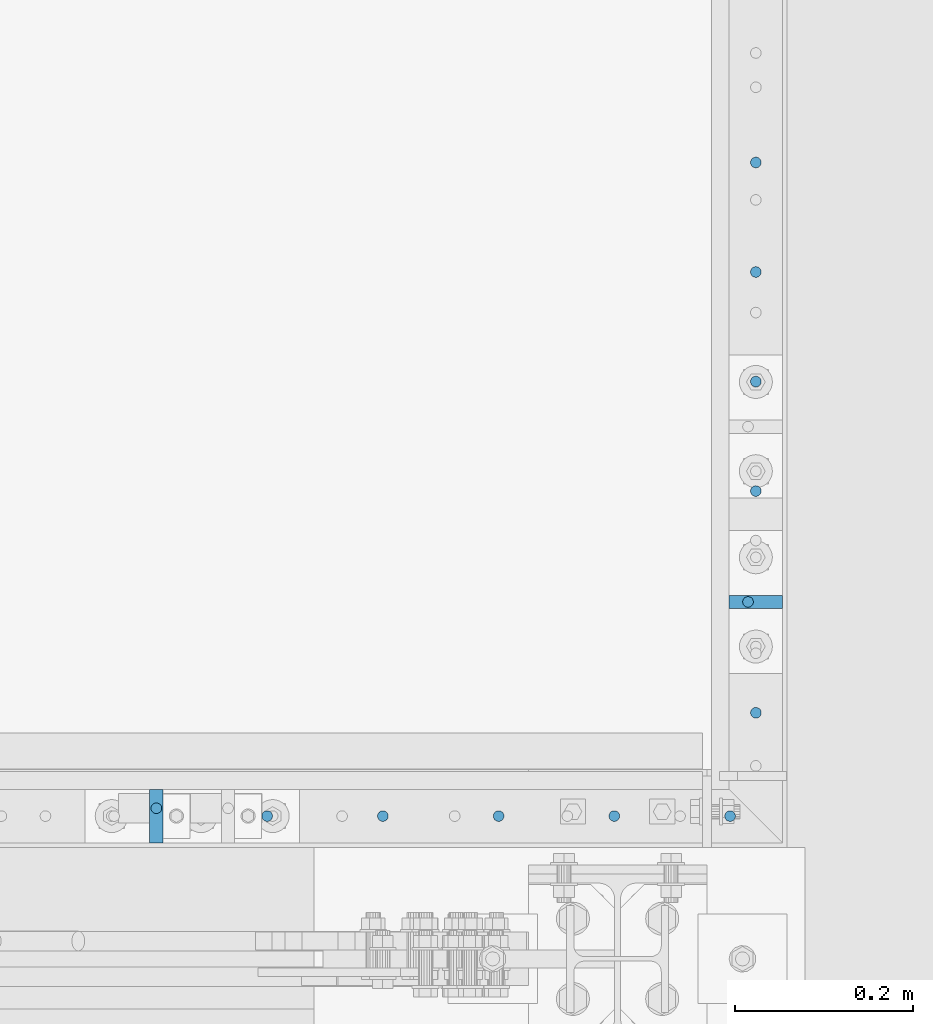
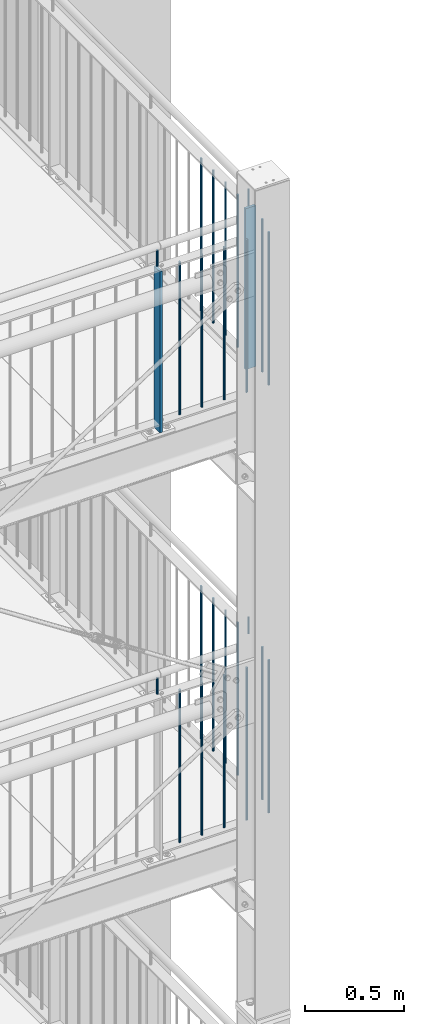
# One storey, part 87 of 831: 26 columns.
"""IFC2X3 building model written with IfcOpenShell, lengths in millimetres."""

import ifcopenshell
import ifcopenshell.guid

model = None  # the IFC model being written
_history = None  # IfcOwnerHistory: only IFC2X3 demands one
_inside = {}  # id of a spatial element -> (the spatial element, [elements in it])
_under = {}  # id of a project, library or spatial element -> (it, [spatial elements below it])
_declared = {}  # id of a project -> (the project, [libraries it declares])
_typed = {}  # id of a type object -> (the type object, [elements of that type])
_made_of = {}  # id of a material, layer set ... -> (it, [elements and type objects made of it])


def new_model(schema):
    """Start an empty IFC model of exactly this schema.

    Asked for "IFC4X3", IfcOpenShell would pick the latest addendum, in which some entities
    have other attributes; the version numbers below select the first issue.
    IFC2X3 requires an IfcOwnerHistory on every rooted entity: one is made here for all.
    """
    global model, _history
    if schema == "IFC4X3":
        model = ifcopenshell.file(schema_version=(4, 3, 0, 0))
    else:
        model = ifcopenshell.file(schema=schema)
    _inside.clear()
    _under.clear()
    _declared.clear()
    _typed.clear()
    _made_of.clear()
    _history = None
    if model.schema == "IFC2X3":
        org = make("IfcOrganization", Name="unknown")
        user = make(
            "IfcPersonAndOrganization",
            ThePerson=make("IfcPerson", FamilyName="unknown"),
            TheOrganization=org,
        )
        app = make(
            "IfcApplication",
            ApplicationDeveloper=org,
            Version="unknown",
            ApplicationFullName="unknown",
            ApplicationIdentifier="unknown",
        )
        _history = make(
            "IfcOwnerHistory",
            OwningUser=user,
            OwningApplication=app,
            ChangeAction="ADDED",
            CreationDate=0,
        )
    return model


def make(cls, **values):
    """One entity of the class cls with the attributes given. An attribute that is None is left unset."""
    return model.create_entity(
        cls, **{name: value for name, value in values.items() if value is not None}
    )


def entity(cls, *values):
    """Any entity or typed value of the class cls, its attributes in the order of the schema. None: left unset."""
    e = model.create_entity(cls)
    for i, value in enumerate(values):
        if value is not None:
            e[i] = value
    return e


def rooted(cls, **values):
    """An entity with a GlobalId (a new one), such as an element, a storey or a relation."""
    return make(cls, GlobalId=ifcopenshell.guid.new(), OwnerHistory=_history, **values)


def si_unit(unit_type, name, prefix=None):
    """IfcSIUnit, for example si_unit("LENGTHUNIT", "METRE", prefix="MILLI")."""
    return make("IfcSIUnit", UnitType=unit_type, Prefix=prefix, Name=name)


def converted_unit(unit_type, name, factor, base, dimensions=None, offset=None):
    """IfcConversionBasedUnit, such as the inch: factor (a typed value) times the base unit."""
    return make(
        "IfcConversionBasedUnit"
        if offset is None
        else "IfcConversionBasedUnitWithOffset",
        ConversionOffset=offset,
        Dimensions=None
        if dimensions is None
        else entity("IfcDimensionalExponents", *dimensions),
        UnitType=unit_type,
        Name=name,
        ConversionFactor=make(
            "IfcMeasureWithUnit", ValueComponent=factor, UnitComponent=base
        ),
    )


def assignment(units):
    """IfcUnitAssignment: the units of a project."""
    return None if units is None else make("IfcUnitAssignment", Units=units)


def point(xyz):
    """IfcCartesianPoint."""
    return None if xyz is None else make("IfcCartesianPoint", Coordinates=xyz)


def direction(xyz):
    """IfcDirection."""
    return None if xyz is None else make("IfcDirection", DirectionRatios=xyz)


def frame(location, z_axis=None, x_axis=None):
    """IfcAxis2Placement3D, a coordinate frame: its origin and axes. An axis left out is left unset."""
    return make(
        "IfcAxis2Placement3D",
        Location=point(location),
        Axis=direction(z_axis),
        RefDirection=direction(x_axis),
    )


def frame_2d(location, x_axis=None):
    """IfcAxis2Placement2D, a coordinate frame in the plane: its origin and x axis."""
    return make(
        "IfcAxis2Placement2D", Location=point(location), RefDirection=direction(x_axis)
    )


def origin():
    """The frame at (0, 0, 0) with its axes left unset."""
    return frame((0.0, 0.0, 0.0))


def origin_with_axes():
    """The frame at (0, 0, 0) with the z axis (0, 0, 1) and the x axis (1, 0, 0) written out."""
    return frame((0.0, 0.0, 0.0), z_axis=(0.0, 0.0, 1.0), x_axis=(1.0, 0.0, 0.0))


def origin_2d():
    """The frame at (0, 0) in the plane with its x axis left unset."""
    return frame_2d((0.0, 0.0))


def place(relative_to, where):
    """IfcLocalPlacement: puts the frame where relative to a parent placement (None: the world)."""
    return make(
        "IfcLocalPlacement", PlacementRelTo=relative_to, RelativePlacement=where
    )


def context(
    kind, dimensions, precision=None, world=None, true_north=None, identifier=None
):
    """IfcGeometricRepresentationContext, for example the 3D "Model" context."""
    return make(
        "IfcGeometricRepresentationContext",
        ContextIdentifier=identifier,
        ContextType=kind,
        CoordinateSpaceDimension=dimensions,
        Precision=precision,
        WorldCoordinateSystem=world,
        TrueNorth=true_north,
    )


def project(units=None, contexts=None):
    """IfcProject with its units and contexts."""
    return rooted(
        "IfcProject",
        Name="project",
        RepresentationContexts=contexts,
        UnitsInContext=assignment(units),
    )


def spatial(cls, under=None, at=None, **own):
    """A site, building, storey or space (cls), placed at a placement, below another one or the project."""
    s = rooted(cls, ObjectPlacement=at, **own)
    if under is not None:
        _under.setdefault(under.id(), (under, []))[1].append(s)
    return s


def profile(cls, at=None, kind="AREA", **sizes):
    """A parametric profile (cls). Its sizes go by their IFC names, for example OverallWidth=200.0."""
    return make(cls, ProfileType=kind, Position=at, **sizes)


def rectangle(**sizes):
    """IfcRectangleProfileDef."""
    return profile("IfcRectangleProfileDef", **sizes)


def circle(**sizes):
    """IfcCircleProfileDef."""
    return profile("IfcCircleProfileDef", **sizes)


def extrude(swept, where, along, depth):
    """IfcExtrudedAreaSolid: the profile swept, set in the frame where, extruded along a direction by depth."""
    return make(
        "IfcExtrudedAreaSolid",
        SweptArea=swept,
        Position=where,
        ExtrudedDirection=direction(along),
        Depth=depth,
    )


def clip(a, b, op="DIFFERENCE"):
    """IfcBooleanClippingResult: the solid a cut by the half space b."""
    return make(
        "IfcBooleanClippingResult", Operator=op, FirstOperand=a, SecondOperand=b
    )


def halfspace(plane, agree):
    """IfcHalfSpaceSolid: all space on one side of the plane z = 0 of the frame plane."""
    return make(
        "IfcHalfSpaceSolid",
        BaseSurface=make("IfcPlane", Position=plane),
        AgreementFlag=agree,
    )


def shape(context_of_items, identifier, shape_type, items):
    """IfcShapeRepresentation: the items that make up one representation, for example the "Body"."""
    return make(
        "IfcShapeRepresentation",
        ContextOfItems=context_of_items,
        RepresentationIdentifier=identifier,
        RepresentationType=shape_type,
        Items=items,
    )


def material(Name=None, Category=None):
    """IfcMaterial."""
    return make("IfcMaterial", Name=Name, Category=Category)


def made_of(thing, what):
    """Note that an element or type object is made of a material, layer set ...; save() writes the relation."""
    if what is not None:
        _made_of.setdefault(what.id(), (what, []))[1].append(thing)
    return thing


def element(
    cls,
    number,
    at=None,
    inside=None,
    cuts=None,
    type_object=None,
    material=None,
    context=None,
    identifier="Body",
    shape_type=None,
    held_by="IfcProductDefinitionShape",
    body=None,
    shapes=None,
    **own,
):
    """One element of the class cls, such as IfcWall. Its Tag is "e" and its number.

    at: its placement. inside: the storey or other place that contains it. cuts: it is an
    opening in that element (IfcRelVoidsElement). A single representation is given by context,
    identifier, shape_type and body (its items); several are given by shapes. held_by: the class
    of the entity that holds the representations. save() writes the other relations.
    """
    e = rooted(cls, Tag="e%d" % number, ObjectPlacement=at, **own)
    if body is not None:
        shapes = [shape(context, identifier, shape_type, body)]
    if shapes is not None:
        e.Representation = make(held_by, Representations=shapes)
    if inside is not None:
        _inside.setdefault(inside.id(), (inside, []))[1].append(e)
    if cuts is not None:
        rooted(
            "IfcRelVoidsElement", RelatingBuildingElement=cuts, RelatedOpeningElement=e
        )
    if type_object is not None:
        _typed.setdefault(type_object.id(), (type_object, []))[1].append(e)
    return made_of(e, material)


def aggregate(whole, parts):
    """IfcRelAggregates: a whole, such as a stair, and the parts it consists of."""
    return rooted("IfcRelAggregates", RelatingObject=whole, RelatedObjects=parts)


def save(model, path):
    """Write the relations noted so far, then the file.

    IfcRelAggregates (storeys below a building ...), IfcRelContainedInSpatialStructure (elements
    in a storey), IfcRelDefinesByType, IfcRelAssociatesMaterial and IfcRelDeclares: one each for
    every whole, place, type object, material and project.
    """
    for whole, parts in _under.values():
        aggregate(whole, parts)
    for where, things in _inside.values():
        rooted(
            "IfcRelContainedInSpatialStructure",
            RelatedElements=things,
            RelatingStructure=where,
        )
    for kind, things in _typed.values():
        rooted("IfcRelDefinesByType", RelatedObjects=things, RelatingType=kind)
    for what, things in _made_of.values():
        rooted("IfcRelAssociatesMaterial", RelatedObjects=things, RelatingMaterial=what)
    for by, libraries in _declared.values():
        rooted("IfcRelDeclares", RelatingContext=by, RelatedDefinitions=libraries)
    model.write(path)


model = new_model("IFC2X3")

# Units and contexts
model_context = context("Model", 3, precision=1e-09, world=origin_with_axes())
ifc_project = project(units=[si_unit("LENGTHUNIT", "METRE", prefix="MILLI"), si_unit("AREAUNIT", "SQUARE_METRE"), si_unit("VOLUMEUNIT", "CUBIC_METRE"), converted_unit("PLANEANGLEUNIT", "DEGREE", entity("IfcPlaneAngleMeasure", 0.01745329), si_unit("PLANEANGLEUNIT", "RADIAN"), dimensions=[0, 0, 0, 0, 0, 0, 0])], contexts=[model_context])

# Site, building, storey
site_placement = place(None, origin_with_axes())
site = spatial("IfcSite", under=ifc_project, at=site_placement, Name="Site", CompositionType="ELEMENT")
building_placement = place(site_placement, origin_with_axes())
building = spatial("IfcBuilding", under=site, at=building_placement, Name="Struktur 1", CompositionType="ELEMENT")
storey_placement = place(building_placement, origin_with_axes())
storey = spatial("IfcBuildingStorey", under=building, at=storey_placement, Name="Default Storey", CompositionType="ELEMENT", Elevation=0.0)

# Columns
ifc_material = material(Name="S235JR")
column_1_placement = place(None, frame((9021.713402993, 5259.236043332, 14918.785281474), z_axis=(0.0, 0.0, 1.0), x_axis=(0.0, -1.0, 0.0)))
element("IfcColumn", 1, at=column_1_placement, inside=storey, material=ifc_material, Name="Railing_Picket_Landing#45", ObjectType="Railing_Picket_Landing#45", context=model_context, shape_type="Clipping", body=[
    clip(clip(extrude(circle(Radius=6.0, at=origin_2d()), origin(), (0.0, 0.0, -1.0), 965.770562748), halfspace(frame((5259.236043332, -9021.713402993, -13.486281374), z_axis=(0.0, 0.0, -1.0), x_axis=(0.0, -1.0, 0.0)), True)), halfspace(frame((5259.236043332, -9021.713402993, -952.284281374), z_axis=(0.0, 0.0, 1.0), x_axis=(0.0, 1.0, 0.0)), True)),
])
column_2_placement = place(None, frame((9021.713402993, 5136.486019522, 14918.785281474), z_axis=(0.0, 0.0, 1.0), x_axis=(0.0, -1.0, 0.0)))
element("IfcColumn", 2, at=column_2_placement, inside=storey, material=ifc_material, Name="Railing_Picket_Landing#46", ObjectType="Railing_Picket_Landing#46", context=model_context, shape_type="Clipping", body=[
    clip(clip(extrude(circle(Radius=6.0, at=origin_2d()), origin(), (0.0, 0.0, -1.0), 965.770562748), halfspace(frame((5136.486019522, -9021.713402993, -13.486281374), z_axis=(0.0, 0.0, -1.0), x_axis=(0.0, -1.0, 0.0)), True)), halfspace(frame((5136.486019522, -9021.713402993, -952.284281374), z_axis=(0.0, 0.0, 1.0), x_axis=(0.0, 1.0, 0.0)), True)),
])
column_3_placement = place(None, frame((9021.713402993, 5013.735995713, 14918.785281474), z_axis=(0.0, 0.0, 1.0), x_axis=(0.0, -1.0, 0.0)))
element("IfcColumn", 3, at=column_3_placement, inside=storey, material=ifc_material, Name="Railing_Picket_Landing#47", ObjectType="Railing_Picket_Landing#47", context=model_context, shape_type="Clipping", body=[
    clip(clip(extrude(circle(Radius=6.0, at=origin_2d()), origin(), (0.0, 0.0, -1.0), 965.770562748), halfspace(frame((5013.735995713, -9021.713402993, -13.486281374), z_axis=(0.0, 0.0, -1.0), x_axis=(0.0, -1.0, 0.0)), True)), halfspace(frame((5013.735995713, -9021.713402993, -952.284281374), z_axis=(0.0, 0.0, 1.0), x_axis=(0.0, 1.0, 0.0)), True)),
])
column_4_placement = place(None, frame((9021.713402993, 4890.985971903, 14918.785281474), z_axis=(0.0, 0.0, 1.0), x_axis=(0.0, -1.0, 0.0)))
element("IfcColumn", 4, at=column_4_placement, inside=storey, material=ifc_material, Name="Railing_Picket_Landing#48", ObjectType="Railing_Picket_Landing#48", context=model_context, shape_type="Clipping", body=[
    clip(clip(extrude(circle(Radius=6.0, at=origin_2d()), origin(), (0.0, 0.0, -1.0), 965.770562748), halfspace(frame((4890.985971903, -9021.713402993, -13.486281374), z_axis=(0.0, 0.0, -1.0), x_axis=(0.0, -1.0, 0.0)), True)), halfspace(frame((4890.985971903, -9021.713402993, -952.284281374), z_axis=(0.0, 0.0, 1.0), x_axis=(0.0, 1.0, 0.0)), True)),
])
column_5_placement = place(None, frame((9021.713402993, 4642.485971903, 14918.785281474), z_axis=(0.0, 0.0, 1.0), x_axis=(0.0, -1.0, 0.0)))
element("IfcColumn", 5, at=column_5_placement, inside=storey, material=ifc_material, Name="Railing_Picket_Landing#49", ObjectType="Railing_Picket_Landing#49", context=model_context, shape_type="Clipping", body=[
    clip(clip(extrude(circle(Radius=6.0, at=origin_2d()), origin(), (0.0, 0.0, -1.0), 965.770562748), halfspace(frame((4642.485971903, -9021.713402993, -13.486281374), z_axis=(0.0, 0.0, -1.0), x_axis=(0.0, -1.0, 0.0)), True)), halfspace(frame((4642.485971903, -9021.713402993, -952.284281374), z_axis=(0.0, 0.0, 1.0), x_axis=(0.0, 1.0, 0.0)), True)),
])
column_6_placement = place(None, frame((8992.778374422, 4526.736971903, 14918.785281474), z_axis=(0.0, 0.0, 1.0), x_axis=(-1.0, 0.0, 0.0)))
element("IfcColumn", 6, at=column_6_placement, inside=storey, material=ifc_material, Name="Railing_Picket_Landing#50", ObjectType="Railing_Picket_Landing#50", context=model_context, shape_type="Clipping", body=[
    clip(clip(extrude(circle(Radius=6.0, at=origin_2d()), origin(), (0.0, 0.0, -1.0), 965.770562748), halfspace(frame((8992.778374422, 4526.736971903, -13.486281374), z_axis=(0.0, 0.0, -1.0), x_axis=(1.0, 0.0, 0.0)), True)), halfspace(frame((8992.778374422, 4526.736971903, -952.284281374), z_axis=(0.0, 0.0, 1.0), x_axis=(-1.0, 0.0, 0.0)), True)),
])
column_7_placement = place(None, frame((8863.09434585, 4526.736971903, 14918.785281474), z_axis=(0.0, 0.0, 1.0), x_axis=(-1.0, 0.0, 0.0)))
element("IfcColumn", 7, at=column_7_placement, inside=storey, material=ifc_material, Name="Railing_Picket_Landing#51", ObjectType="Railing_Picket_Landing#51", context=model_context, shape_type="Clipping", body=[
    clip(clip(extrude(circle(Radius=6.0, at=origin_2d()), origin(), (0.0, 0.0, -1.0), 965.770562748), halfspace(frame((8863.09434585, 4526.736971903, -13.486281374), z_axis=(0.0, 0.0, -1.0), x_axis=(1.0, 0.0, 0.0)), True)), halfspace(frame((8863.09434585, 4526.736971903, -952.284281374), z_axis=(0.0, 0.0, 1.0), x_axis=(-1.0, 0.0, 0.0)), True)),
])
column_8_placement = place(None, frame((8733.410317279, 4526.736971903, 14918.785281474), z_axis=(0.0, 0.0, 1.0), x_axis=(-1.0, 0.0, 0.0)))
element("IfcColumn", 8, at=column_8_placement, inside=storey, material=ifc_material, Name="Railing_Picket_Landing#52", ObjectType="Railing_Picket_Landing#52", context=model_context, shape_type="Clipping", body=[
    clip(clip(extrude(circle(Radius=6.0, at=origin_2d()), origin(), (0.0, 0.0, -1.0), 965.770562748), halfspace(frame((8733.410317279, 4526.736971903, -13.486281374), z_axis=(0.0, 0.0, -1.0), x_axis=(1.0, 0.0, 0.0)), True)), halfspace(frame((8733.410317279, 4526.736971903, -952.284281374), z_axis=(0.0, 0.0, 1.0), x_axis=(-1.0, 0.0, 0.0)), True)),
])
column_9_placement = place(None, frame((8603.726288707, 4526.736971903, 14918.785281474), z_axis=(0.0, 0.0, 1.0), x_axis=(-1.0, 0.0, 0.0)))
element("IfcColumn", 9, at=column_9_placement, inside=storey, material=ifc_material, Name="Railing_Picket_Landing#53", ObjectType="Railing_Picket_Landing#53", context=model_context, shape_type="Clipping", body=[
    clip(clip(extrude(circle(Radius=6.0, at=origin_2d()), origin(), (0.0, 0.0, -1.0), 965.770562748), halfspace(frame((8603.726288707, 4526.736971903, -13.486281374), z_axis=(0.0, 0.0, -1.0), x_axis=(1.0, 0.0, 0.0)), True)), halfspace(frame((8603.726288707, 4526.736971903, -952.284281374), z_axis=(0.0, 0.0, 1.0), x_axis=(-1.0, 0.0, 0.0)), True)),
])
column_10_placement = place(None, frame((8474.042260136, 4526.736971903, 14918.785281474), z_axis=(0.0, 0.0, 1.0), x_axis=(-1.0, 0.0, 0.0)))
element("IfcColumn", 10, at=column_10_placement, inside=storey, material=ifc_material, Name="Railing_Picket_Landing#54", ObjectType="Railing_Picket_Landing#54", context=model_context, shape_type="Clipping", body=[
    clip(clip(extrude(circle(Radius=6.0, at=origin_2d()), origin(), (0.0, 0.0, -1.0), 965.770562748), halfspace(frame((8474.042260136, 4526.736971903, -13.486281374), z_axis=(0.0, 0.0, -1.0), x_axis=(1.0, 0.0, 0.0)), True)), halfspace(frame((8474.042260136, 4526.736971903, -952.284281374), z_axis=(0.0, 0.0, 1.0), x_axis=(-1.0, 0.0, 0.0)), True)),
])
column_11_placement = place(None, frame((9012.913402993, 4766.735971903, 15023.785281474), z_axis=(0.0, 0.0, 1.0), x_axis=(-1.0, 0.0, 0.0)))
element("IfcColumn", 11, at=column_11_placement, inside=storey, material=ifc_material, Name="Bar#7", ObjectType="Bar#7", context=model_context, shape_type="Clipping", body=[
    clip(clip(extrude(circle(Radius=6.0, at=origin_2d()), origin(), (0.0, 0.0, -1.0), 116.970562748), halfspace(frame((9012.913402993, 4766.735971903, -8.486281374), z_axis=(0.0, 0.0, -1.0), x_axis=(1.0, 0.0, 0.0)), True)), halfspace(frame((9012.913402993, 4766.735971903, -108.484281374), z_axis=(0.0, 0.0, 1.0), x_axis=(-1.0, 0.0, 0.0)), True)),
])
column_12_placement = place(None, frame((8349.792260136, 4535.536971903, 15023.785281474), z_axis=(0.0, 0.0, 1.0), x_axis=(0.0, 1.0, 0.0)))
element("IfcColumn", 12, at=column_12_placement, inside=storey, material=ifc_material, Name="Bar#8", ObjectType="Bar#8", context=model_context, shape_type="Clipping", body=[
    clip(clip(extrude(circle(Radius=6.0, at=origin_2d()), origin(), (0.0, 0.0, -1.0), 116.970562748), halfspace(frame((-4535.536971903, 8349.792260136, -8.486281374), z_axis=(0.0, 0.0, -1.0), x_axis=(0.0, 1.0, 0.0)), True)), halfspace(frame((-4535.536971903, 8349.792260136, -108.484281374), z_axis=(0.0, 0.0, 1.0), x_axis=(0.0, -1.0, 0.0)), True)),
])
column_13_placement = place(None, frame((9021.713402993, 4766.735971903, 17563.723292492), z_axis=(0.0, 0.0, 1.0), x_axis=(0.0, -1.0, 0.0)))
element("IfcColumn", 13, at=column_13_placement, inside=storey, material=ifc_material, Name="Railing_Post_Landing#7", ObjectType="Railing_Post_Landing#7", context=model_context, shape_type="Clipping", body=[
    clip(clip(extrude(rectangle(XDim=15.0, YDim=60.0, at=origin_2d()), origin(), (0.0, 0.0, -1.0), 1070.646584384), halfspace(frame((4766.735971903, -9021.713402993, -1019.722292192), z_axis=(0.0, 0.0, 1.0), x_axis=(0.0, 1.0, 0.0)), True)), halfspace(frame((4766.735971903, -9021.713402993, -30.924292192), z_axis=(0.0, 0.0, -1.0), x_axis=(0.0, -1.0, 0.0)), True)),
])
column_14_placement = place(None, frame((8349.792260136, 4526.736971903, 17563.723292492), z_axis=(0.0, 0.0, 1.0), x_axis=(-1.0, 0.0, 0.0)))
element("IfcColumn", 14, at=column_14_placement, inside=storey, material=ifc_material, Name="Railing_Post_Landing#8", ObjectType="Railing_Post_Landing#8", context=model_context, shape_type="Clipping", body=[
    clip(clip(extrude(rectangle(XDim=15.0, YDim=60.0, at=origin_2d()), origin(), (0.0, 0.0, -1.0), 1070.646584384), halfspace(frame((8349.792260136, 4526.736971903, -1019.722292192), z_axis=(0.0, 0.0, 1.0), x_axis=(-1.0, 0.0, 0.0)), True)), halfspace(frame((8349.792260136, 4526.736971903, -30.924292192), z_axis=(0.0, 0.0, -1.0), x_axis=(1.0, 0.0, 0.0)), True)),
])
column_15_placement = place(None, frame((9021.713402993, 5259.236043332, 17546.285281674), z_axis=(0.0, 0.0, 1.0), x_axis=(0.0, -1.0, 0.0)))
element("IfcColumn", 15, at=column_15_placement, inside=storey, material=ifc_material, Name="Railing_Picket_Landing#45", ObjectType="Railing_Picket_Landing#45", context=model_context, shape_type="Clipping", body=[
    clip(clip(extrude(circle(Radius=6.0, at=origin_2d()), origin(), (0.0, 0.0, -1.0), 965.770562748), halfspace(frame((5259.236043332, -9021.713402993, -13.486281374), z_axis=(0.0, 0.0, -1.0), x_axis=(0.0, -1.0, 0.0)), True)), halfspace(frame((5259.236043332, -9021.713402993, -952.284281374), z_axis=(0.0, 0.0, 1.0), x_axis=(0.0, 1.0, 0.0)), True)),
])
column_16_placement = place(None, frame((9021.713402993, 5136.486019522, 17546.285281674), z_axis=(0.0, 0.0, 1.0), x_axis=(0.0, -1.0, 0.0)))
element("IfcColumn", 16, at=column_16_placement, inside=storey, material=ifc_material, Name="Railing_Picket_Landing#46", ObjectType="Railing_Picket_Landing#46", context=model_context, shape_type="Clipping", body=[
    clip(clip(extrude(circle(Radius=6.0, at=origin_2d()), origin(), (0.0, 0.0, -1.0), 965.770562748), halfspace(frame((5136.486019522, -9021.713402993, -13.486281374), z_axis=(0.0, 0.0, -1.0), x_axis=(0.0, -1.0, 0.0)), True)), halfspace(frame((5136.486019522, -9021.713402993, -952.284281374), z_axis=(0.0, 0.0, 1.0), x_axis=(0.0, 1.0, 0.0)), True)),
])
column_17_placement = place(None, frame((9021.713402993, 5013.735995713, 17546.285281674), z_axis=(0.0, 0.0, 1.0), x_axis=(0.0, -1.0, 0.0)))
element("IfcColumn", 17, at=column_17_placement, inside=storey, material=ifc_material, Name="Railing_Picket_Landing#47", ObjectType="Railing_Picket_Landing#47", context=model_context, shape_type="Clipping", body=[
    clip(clip(extrude(circle(Radius=6.0, at=origin_2d()), origin(), (0.0, 0.0, -1.0), 965.770562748), halfspace(frame((5013.735995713, -9021.713402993, -13.486281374), z_axis=(0.0, 0.0, -1.0), x_axis=(0.0, -1.0, 0.0)), True)), halfspace(frame((5013.735995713, -9021.713402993, -952.284281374), z_axis=(0.0, 0.0, 1.0), x_axis=(0.0, 1.0, 0.0)), True)),
])
column_18_placement = place(None, frame((9021.713402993, 4890.985971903, 17546.285281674), z_axis=(0.0, 0.0, 1.0), x_axis=(0.0, -1.0, 0.0)))
element("IfcColumn", 18, at=column_18_placement, inside=storey, material=ifc_material, Name="Railing_Picket_Landing#48", ObjectType="Railing_Picket_Landing#48", context=model_context, shape_type="Clipping", body=[
    clip(clip(extrude(circle(Radius=6.0, at=origin_2d()), origin(), (0.0, 0.0, -1.0), 965.770562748), halfspace(frame((4890.985971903, -9021.713402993, -13.486281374), z_axis=(0.0, 0.0, -1.0), x_axis=(0.0, -1.0, 0.0)), True)), halfspace(frame((4890.985971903, -9021.713402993, -952.284281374), z_axis=(0.0, 0.0, 1.0), x_axis=(0.0, 1.0, 0.0)), True)),
])
column_19_placement = place(None, frame((9021.713402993, 4642.485971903, 17546.285281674), z_axis=(0.0, 0.0, 1.0), x_axis=(0.0, -1.0, 0.0)))
element("IfcColumn", 19, at=column_19_placement, inside=storey, material=ifc_material, Name="Railing_Picket_Landing#49", ObjectType="Railing_Picket_Landing#49", context=model_context, shape_type="Clipping", body=[
    clip(clip(extrude(circle(Radius=6.0, at=origin_2d()), origin(), (0.0, 0.0, -1.0), 965.770562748), halfspace(frame((4642.485971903, -9021.713402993, -13.486281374), z_axis=(0.0, 0.0, -1.0), x_axis=(0.0, -1.0, 0.0)), True)), halfspace(frame((4642.485971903, -9021.713402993, -952.284281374), z_axis=(0.0, 0.0, 1.0), x_axis=(0.0, 1.0, 0.0)), True)),
])
column_20_placement = place(None, frame((8992.778374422, 4526.736971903, 17546.285281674), z_axis=(0.0, 0.0, 1.0), x_axis=(-1.0, 0.0, 0.0)))
element("IfcColumn", 20, at=column_20_placement, inside=storey, material=ifc_material, Name="Railing_Picket_Landing#50", ObjectType="Railing_Picket_Landing#50", context=model_context, shape_type="Clipping", body=[
    clip(clip(extrude(circle(Radius=6.0, at=origin_2d()), origin(), (0.0, 0.0, -1.0), 965.770562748), halfspace(frame((8992.778374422, 4526.736971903, -13.486281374), z_axis=(0.0, 0.0, -1.0), x_axis=(1.0, 0.0, 0.0)), True)), halfspace(frame((8992.778374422, 4526.736971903, -952.284281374), z_axis=(0.0, 0.0, 1.0), x_axis=(-1.0, 0.0, 0.0)), True)),
])
column_21_placement = place(None, frame((8863.09434585, 4526.736971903, 17546.285281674), z_axis=(0.0, 0.0, 1.0), x_axis=(-1.0, 0.0, 0.0)))
element("IfcColumn", 21, at=column_21_placement, inside=storey, material=ifc_material, Name="Railing_Picket_Landing#51", ObjectType="Railing_Picket_Landing#51", context=model_context, shape_type="Clipping", body=[
    clip(clip(extrude(circle(Radius=6.0, at=origin_2d()), origin(), (0.0, 0.0, -1.0), 965.770562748), halfspace(frame((8863.09434585, 4526.736971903, -13.486281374), z_axis=(0.0, 0.0, -1.0), x_axis=(1.0, 0.0, 0.0)), True)), halfspace(frame((8863.09434585, 4526.736971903, -952.284281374), z_axis=(0.0, 0.0, 1.0), x_axis=(-1.0, 0.0, 0.0)), True)),
])
column_22_placement = place(None, frame((8733.410317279, 4526.736971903, 17546.285281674), z_axis=(0.0, 0.0, 1.0), x_axis=(-1.0, 0.0, 0.0)))
element("IfcColumn", 22, at=column_22_placement, inside=storey, material=ifc_material, Name="Railing_Picket_Landing#52", ObjectType="Railing_Picket_Landing#52", context=model_context, shape_type="Clipping", body=[
    clip(clip(extrude(circle(Radius=6.0, at=origin_2d()), origin(), (0.0, 0.0, -1.0), 965.770562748), halfspace(frame((8733.410317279, 4526.736971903, -13.486281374), z_axis=(0.0, 0.0, -1.0), x_axis=(1.0, 0.0, 0.0)), True)), halfspace(frame((8733.410317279, 4526.736971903, -952.284281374), z_axis=(0.0, 0.0, 1.0), x_axis=(-1.0, 0.0, 0.0)), True)),
])
column_23_placement = place(None, frame((8603.726288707, 4526.736971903, 17546.285281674), z_axis=(0.0, 0.0, 1.0), x_axis=(-1.0, 0.0, 0.0)))
element("IfcColumn", 23, at=column_23_placement, inside=storey, material=ifc_material, Name="Railing_Picket_Landing#53", ObjectType="Railing_Picket_Landing#53", context=model_context, shape_type="Clipping", body=[
    clip(clip(extrude(circle(Radius=6.0, at=origin_2d()), origin(), (0.0, 0.0, -1.0), 965.770562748), halfspace(frame((8603.726288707, 4526.736971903, -13.486281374), z_axis=(0.0, 0.0, -1.0), x_axis=(1.0, 0.0, 0.0)), True)), halfspace(frame((8603.726288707, 4526.736971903, -952.284281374), z_axis=(0.0, 0.0, 1.0), x_axis=(-1.0, 0.0, 0.0)), True)),
])
column_24_placement = place(None, frame((8474.042260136, 4526.736971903, 17546.285281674), z_axis=(0.0, 0.0, 1.0), x_axis=(-1.0, 0.0, 0.0)))
element("IfcColumn", 24, at=column_24_placement, inside=storey, material=ifc_material, Name="Railing_Picket_Landing#54", ObjectType="Railing_Picket_Landing#54", context=model_context, shape_type="Clipping", body=[
    clip(clip(extrude(circle(Radius=6.0, at=origin_2d()), origin(), (0.0, 0.0, -1.0), 965.770562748), halfspace(frame((8474.042260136, 4526.736971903, -13.486281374), z_axis=(0.0, 0.0, -1.0), x_axis=(1.0, 0.0, 0.0)), True)), halfspace(frame((8474.042260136, 4526.736971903, -952.284281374), z_axis=(0.0, 0.0, 1.0), x_axis=(-1.0, 0.0, 0.0)), True)),
])
column_25_placement = place(None, frame((9012.913402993, 4766.735971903, 17651.285281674), z_axis=(0.0, 0.0, 1.0), x_axis=(-1.0, 0.0, 0.0)))
element("IfcColumn", 25, at=column_25_placement, inside=storey, material=ifc_material, Name="Bar#7", ObjectType="Bar#7", context=model_context, shape_type="Clipping", body=[
    clip(clip(extrude(circle(Radius=6.0, at=origin_2d()), origin(), (0.0, 0.0, -1.0), 116.970562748), halfspace(frame((9012.913402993, 4766.735971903, -8.486281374), z_axis=(0.0, 0.0, -1.0), x_axis=(1.0, 0.0, 0.0)), True)), halfspace(frame((9012.913402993, 4766.735971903, -108.484281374), z_axis=(0.0, 0.0, 1.0), x_axis=(-1.0, 0.0, 0.0)), True)),
])
column_26_placement = place(None, frame((8349.792260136, 4535.536971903, 17651.285281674), z_axis=(0.0, 0.0, 1.0), x_axis=(0.0, 1.0, 0.0)))
element("IfcColumn", 26, at=column_26_placement, inside=storey, material=ifc_material, Name="Bar#8", ObjectType="Bar#8", context=model_context, shape_type="Clipping", body=[
    clip(clip(extrude(circle(Radius=6.0, at=origin_2d()), origin(), (0.0, 0.0, -1.0), 116.970562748), halfspace(frame((-4535.536971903, 8349.792260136, -8.486281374), z_axis=(0.0, 0.0, -1.0), x_axis=(0.0, 1.0, 0.0)), True)), halfspace(frame((-4535.536971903, 8349.792260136, -108.484281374), z_axis=(0.0, 0.0, 1.0), x_axis=(0.0, -1.0, 0.0)), True)),
])

save(model, "model.ifc")
